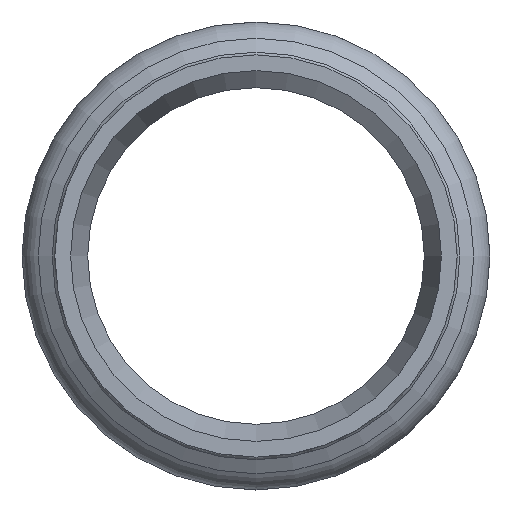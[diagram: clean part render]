
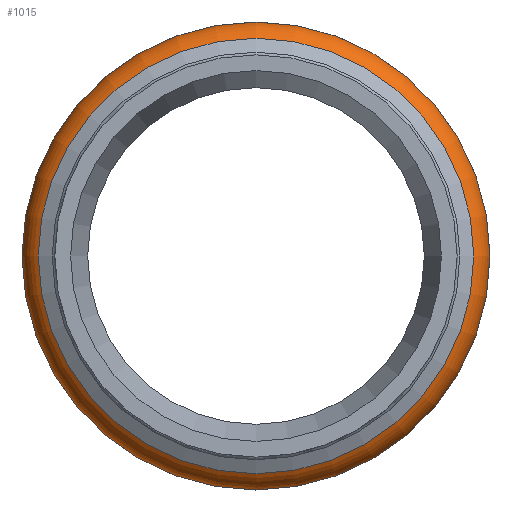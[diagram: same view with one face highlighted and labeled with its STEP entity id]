
A CAD part, left-side view. The second image highlights one B-rep face of the part: STEP entity #1015.
In plain terms, the highlighted toroidal (fillet/blend) face has major radius 19.15 mm and minor radius 3.1 mm.
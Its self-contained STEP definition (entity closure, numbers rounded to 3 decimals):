
#717=CARTESIAN_POINT('',(-24.677,19.559,0.0));
#718=VERTEX_POINT('',#717);
#719=CARTESIAN_POINT('',(-24.677,0.,0.0));
#720=DIRECTION('',(1.0,0.0,0.0));
#721=DIRECTION('',(0.0,-1.0,0.0));
#722=AXIS2_PLACEMENT_3D('',#719,#720,#721);
#723=CIRCLE('',#722,19.559);
#724=EDGE_CURVE('',#718,#718,#723,.T.);
#861=CARTESIAN_POINT('',(-30.435,20.7,0.0));
#862=VERTEX_POINT('',#861);
#863=CARTESIAN_POINT('',(-30.435,0.,0.0));
#864=DIRECTION('',(1.0,0.0,0.0));
#865=DIRECTION('',(0.0,1.0,0.0));
#866=AXIS2_PLACEMENT_3D('',#863,#864,#865);
#867=CIRCLE('',#866,20.7);
#868=EDGE_CURVE('',#862,#862,#867,.T.);
#1004=CARTESIAN_POINT('',(-27.75,0.,0.0));
#1005=DIRECTION('',(1.0,0.,0.0));
#1006=DIRECTION('',(0.0,0.0,-1.0));
#1007=AXIS2_PLACEMENT_3D('',#1004,#1005,#1006);
#1008=TOROIDAL_SURFACE('',#1007,19.15,3.1);
#1009=ORIENTED_EDGE('',*,*,#868,.T.);
#1010=EDGE_LOOP('',(#1009));
#1011=FACE_OUTER_BOUND('',#1010,.T.);
#1012=ORIENTED_EDGE('',*,*,#724,.F.);
#1013=EDGE_LOOP('',(#1012));
#1014=FACE_BOUND('',#1013,.T.);
#1015=ADVANCED_FACE('',(#1011,#1014),#1008,.T.);
